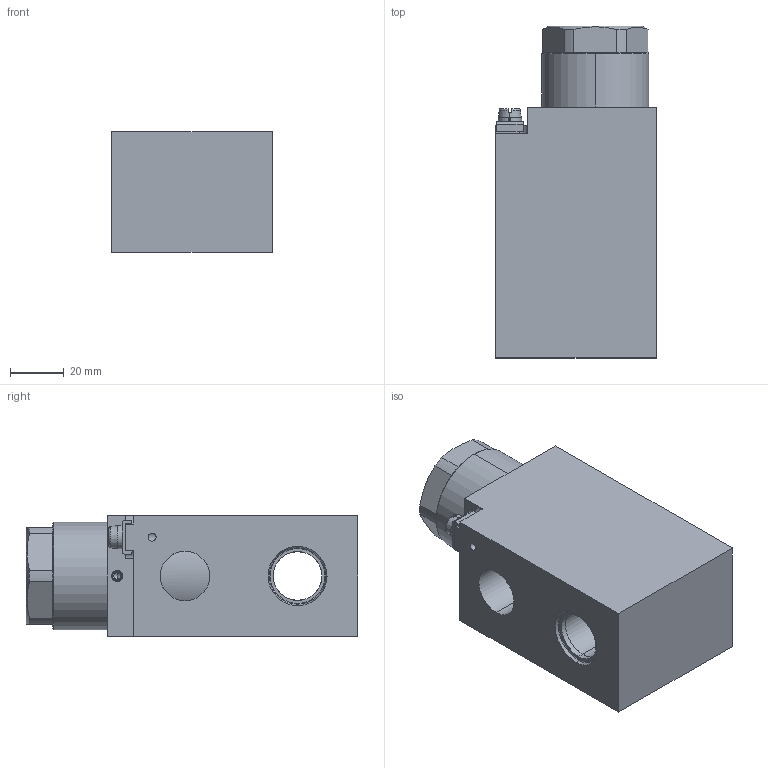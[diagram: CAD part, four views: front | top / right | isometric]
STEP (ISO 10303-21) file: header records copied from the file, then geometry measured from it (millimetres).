
FILE_DESCRIPTION (( 'STEP AP214' ), '1' );
FILE_NAME ('MKY45_18x60-M248.STEP', '2015-07-02T08:47:15', ( '' ), ( '' ), 'SwSTEP 2.0', 'SolidWorks 2014', '' );
FILE_SCHEMA (( 'AUTOMOTIVE_DESIGN' ));
Length unit declared in the file: millimetre
Products named in the file (2): MKY45_18x60-M248
Bounding box: 60 x 123.8 x 45 mm (x, y, z)
Volume: 263370.9 mm3; surface area: 35356.1 mm2
Topology: 5 solids, 5 shells, 162 faces, 394 edges, 251 vertices
Faces by surface type: plane 91, cylinder 45, cone 20, torus 6
Entity records: 6838 total; most frequent: CARTESIAN_POINT 1153, DIRECTION 816, ORIENTED_EDGE 776, EDGE_CURVE 388, AXIS2_PLACEMENT_3D 299, VERTEX_POINT 249, LINE 218, VECTOR 218
